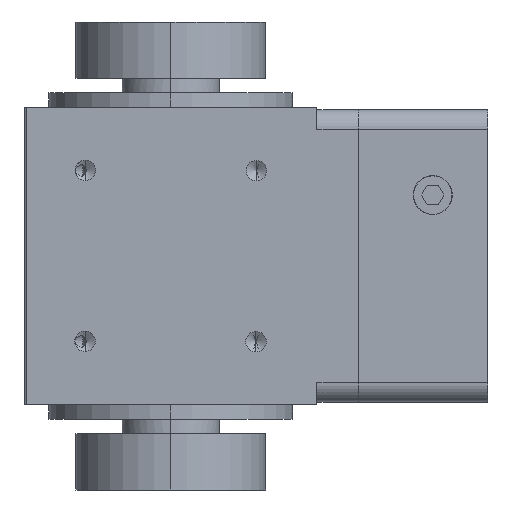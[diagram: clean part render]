
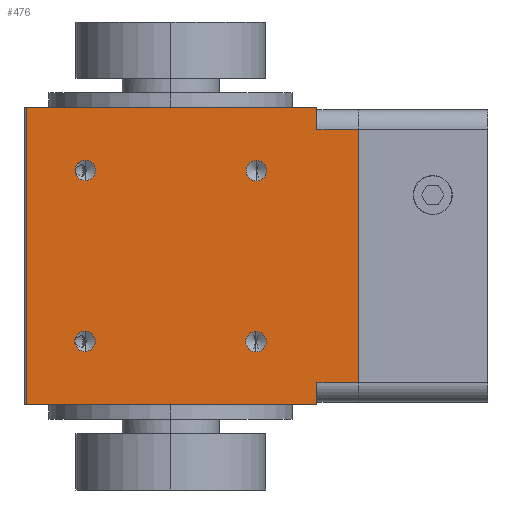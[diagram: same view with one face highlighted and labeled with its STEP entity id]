
A CAD part, left-side view. The second image highlights one B-rep face of the part: STEP entity #476.
In plain terms, the highlighted planar face has unit normal (-1, 0, 0).
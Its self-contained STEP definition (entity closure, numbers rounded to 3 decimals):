
#70 = CARTESIAN_POINT ( 'NONE',  ( -30., -38.5, 26. ) ) ;
#96 = FACE_BOUND ( 'NONE', #4038, .T. ) ;
#128 = EDGE_CURVE ( 'NONE', #6495, #6291, #1496, .T. ) ;
#139 = CIRCLE ( 'NONE', #201, 2.1 ) ;
#180 = FACE_OUTER_BOUND ( 'NONE', #5165, .T. ) ;
#201 = AXIS2_PLACEMENT_3D ( 'NONE', #3367, #2815, #2309 ) ;
#230 = DIRECTION ( 'NONE',  ( 0., -1., 0. ) ) ;
#308 = CARTESIAN_POINT ( 'NONE',  ( -30., 30., -26. ) ) ;
#360 = ORIENTED_EDGE ( 'NONE', *, *, #3170, .F. ) ;
#428 = DIRECTION ( 'NONE',  ( 0., 1., 0. ) ) ;
#470 = DIRECTION ( 'NONE',  ( 0., 0., -1. ) ) ;
#476 = ADVANCED_FACE ( 'NONE', ( #96, #3825, #1649, #3128, #180 ), #2588, .F. ) ;
#477 = DIRECTION ( 'NONE',  ( 0., 0., 1. ) ) ;
#503 = VECTOR ( 'NONE', #866, 1000. ) ;
#538 = EDGE_CURVE ( 'NONE', #3813, #943, #700, .T. ) ;
#597 = CIRCLE ( 'NONE', #5244, 2.1 ) ;
#687 = CARTESIAN_POINT ( 'NONE',  ( -30., 30., 26. ) ) ;
#692 = VERTEX_POINT ( 'NONE', #4547 ) ;
#700 = CIRCLE ( 'NONE', #1173, 2.1 ) ;
#712 = VERTEX_POINT ( 'NONE', #5669 ) ;
#753 = ORIENTED_EDGE ( 'NONE', *, *, #2129, .F. ) ;
#849 = VECTOR ( 'NONE', #470, 1000. ) ;
#866 = DIRECTION ( 'NONE',  ( 0., 0., -1. ) ) ;
#910 = CARTESIAN_POINT ( 'NONE',  ( -30., -17.571, 17.5 ) ) ;
#943 = VERTEX_POINT ( 'NONE', #2567 ) ;
#1085 = DIRECTION ( 'NONE',  ( 0., 0., 1. ) ) ;
#1173 = AXIS2_PLACEMENT_3D ( 'NONE', #1640, #2658, #4962 ) ;
#1300 = DIRECTION ( 'NONE',  ( 0., 1., 0. ) ) ;
#1359 = DIRECTION ( 'NONE',  ( 0., 0., 1. ) ) ;
#1385 = LINE ( 'NONE', #2716, #6348 ) ;
#1386 = CARTESIAN_POINT ( 'NONE',  ( -30., 29.5, -30.5 ) ) ;
#1418 = DIRECTION ( 'NONE',  ( -1., 0., 0. ) ) ;
#1496 = CIRCLE ( 'NONE', #3809, 2.1 ) ;
#1524 = EDGE_CURVE ( 'NONE', #4354, #2408, #1560, .T. ) ;
#1542 = AXIS2_PLACEMENT_3D ( 'NONE', #5966, #4326, #428 ) ;
#1560 = LINE ( 'NONE', #5146, #7136 ) ;
#1572 = CARTESIAN_POINT ( 'NONE',  ( -30., 17.5, 19.671 ) ) ;
#1640 = CARTESIAN_POINT ( 'NONE',  ( -30., 17.5, 17.571 ) ) ;
#1649 = FACE_BOUND ( 'NONE', #4188, .T. ) ;
#1686 = CARTESIAN_POINT ( 'NONE',  ( -30., 17.571, -17.5 ) ) ;
#1713 = ORIENTED_EDGE ( 'NONE', *, *, #2007, .T. ) ;
#1732 = EDGE_CURVE ( 'NONE', #4112, #2787, #3520, .T. ) ;
#1916 = VERTEX_POINT ( 'NONE', #5392 ) ;
#2007 = EDGE_CURVE ( 'NONE', #2408, #2787, #1385, .T. ) ;
#2018 = AXIS2_PLACEMENT_3D ( 'NONE', #3846, #6684, #1085 ) ;
#2040 = CARTESIAN_POINT ( 'NONE',  ( -30., -30., -26. ) ) ;
#2129 = EDGE_CURVE ( 'NONE', #6291, #6495, #6011, .T. ) ;
#2151 = VERTEX_POINT ( 'NONE', #70 ) ;
#2225 = DIRECTION ( 'NONE',  ( 0., 0., 1. ) ) ;
#2258 = ORIENTED_EDGE ( 'NONE', *, *, #538, .F. ) ;
#2309 = DIRECTION ( 'NONE',  ( 0., 0., 1. ) ) ;
#2408 = VERTEX_POINT ( 'NONE', #1386 ) ;
#2567 = CARTESIAN_POINT ( 'NONE',  ( -30., 17.5, 15.471 ) ) ;
#2568 = EDGE_CURVE ( 'NONE', #2151, #692, #7053, .T. ) ;
#2588 = PLANE ( 'NONE',  #1542 ) ;
#2631 = ORIENTED_EDGE ( 'NONE', *, *, #4516, .T. ) ;
#2658 = DIRECTION ( 'NONE',  ( -1., 0., 0. ) ) ;
#2716 = CARTESIAN_POINT ( 'NONE',  ( -30., 30., -30.5 ) ) ;
#2787 = VERTEX_POINT ( 'NONE', #6155 ) ;
#2795 = VERTEX_POINT ( 'NONE', #4451 ) ;
#2815 = DIRECTION ( 'NONE',  ( -1., 0., 0. ) ) ;
#3036 = ORIENTED_EDGE ( 'NONE', *, *, #6430, .T. ) ;
#3090 = ORIENTED_EDGE ( 'NONE', *, *, #5971, .F. ) ;
#3093 = EDGE_CURVE ( 'NONE', #4354, #5569, #3795, .T. ) ;
#3128 = FACE_BOUND ( 'NONE', #4875, .T. ) ;
#3142 = VERTEX_POINT ( 'NONE', #6551 ) ;
#3160 = CARTESIAN_POINT ( 'NONE',  ( -30., 30., 30.5 ) ) ;
#3170 = EDGE_CURVE ( 'NONE', #5569, #712, #7122, .T. ) ;
#3194 = DIRECTION ( 'NONE',  ( 0., 0., 1. ) ) ;
#3347 = AXIS2_PLACEMENT_3D ( 'NONE', #4118, #1418, #1359 ) ;
#3367 = CARTESIAN_POINT ( 'NONE',  ( -30., -17.5, -17.571 ) ) ;
#3407 = DIRECTION ( 'NONE',  ( -1., 0., 0. ) ) ;
#3428 = VECTOR ( 'NONE', #4857, 1000. ) ;
#3438 = EDGE_CURVE ( 'NONE', #2795, #1916, #3699, .T. ) ;
#3440 = DIRECTION ( 'NONE',  ( 0., 0., -1. ) ) ;
#3444 = VECTOR ( 'NONE', #230, 1000. ) ;
#3520 = LINE ( 'NONE', #3525, #503 ) ;
#3525 = CARTESIAN_POINT ( 'NONE',  ( -30., -30., 30.5 ) ) ;
#3676 = DIRECTION ( 'NONE',  ( -1., 0., 0. ) ) ;
#3699 = CIRCLE ( 'NONE', #4014, 2.1 ) ;
#3756 = DIRECTION ( 'NONE',  ( 0., 0., -1. ) ) ;
#3764 = DIRECTION ( 'NONE',  ( 0., -1., 0. ) ) ;
#3794 = CARTESIAN_POINT ( 'NONE',  ( -30., -30., 30.5 ) ) ;
#3795 = LINE ( 'NONE', #3160, #3428 ) ;
#3809 = AXIS2_PLACEMENT_3D ( 'NONE', #1686, #5459, #3194 ) ;
#3813 = VERTEX_POINT ( 'NONE', #1572 ) ;
#3825 = FACE_BOUND ( 'NONE', #5686, .T. ) ;
#3846 = CARTESIAN_POINT ( 'NONE',  ( -30., 17.5, 17.571 ) ) ;
#3973 = EDGE_CURVE ( 'NONE', #943, #3813, #4141, .T. ) ;
#4000 = ORIENTED_EDGE ( 'NONE', *, *, #3093, .F. ) ;
#4014 = AXIS2_PLACEMENT_3D ( 'NONE', #910, #3676, #4714 ) ;
#4038 = EDGE_LOOP ( 'NONE', ( #2258, #6126 ) ) ;
#4088 = ORIENTED_EDGE ( 'NONE', *, *, #1732, .F. ) ;
#4112 = VERTEX_POINT ( 'NONE', #2040 ) ;
#4118 = CARTESIAN_POINT ( 'NONE',  ( -30., -17.571, 17.5 ) ) ;
#4141 = CIRCLE ( 'NONE', #2018, 2.1 ) ;
#4188 = EDGE_LOOP ( 'NONE', ( #4981, #3090 ) ) ;
#4240 = ORIENTED_EDGE ( 'NONE', *, *, #2568, .F. ) ;
#4326 = DIRECTION ( 'NONE',  ( 1., 0., 0. ) ) ;
#4354 = VERTEX_POINT ( 'NONE', #6681 ) ;
#4363 = CARTESIAN_POINT ( 'NONE',  ( -30., -17.5, -15.471 ) ) ;
#4389 = CARTESIAN_POINT ( 'NONE',  ( -30., 17.571, -19.6 ) ) ;
#4431 = LINE ( 'NONE', #308, #3444 ) ;
#4451 = CARTESIAN_POINT ( 'NONE',  ( -30., -17.571, 19.6 ) ) ;
#4516 = EDGE_CURVE ( 'NONE', #2151, #712, #4926, .T. ) ;
#4547 = CARTESIAN_POINT ( 'NONE',  ( -30., -38.5, -26. ) ) ;
#4582 = ORIENTED_EDGE ( 'NONE', *, *, #1524, .T. ) ;
#4714 = DIRECTION ( 'NONE',  ( 0., 0., 1. ) ) ;
#4857 = DIRECTION ( 'NONE',  ( 0., -1., 0. ) ) ;
#4875 = EDGE_LOOP ( 'NONE', ( #7174, #753 ) ) ;
#4926 = LINE ( 'NONE', #687, #5883 ) ;
#4955 = ORIENTED_EDGE ( 'NONE', *, *, #5734, .F. ) ;
#4962 = DIRECTION ( 'NONE',  ( 0., 0., 1. ) ) ;
#4981 = ORIENTED_EDGE ( 'NONE', *, *, #5102, .F. ) ;
#5077 = AXIS2_PLACEMENT_3D ( 'NONE', #5630, #3407, #2225 ) ;
#5102 = EDGE_CURVE ( 'NONE', #6297, #3142, #139, .T. ) ;
#5146 = CARTESIAN_POINT ( 'NONE',  ( -30., 29.5, 30.5 ) ) ;
#5165 = EDGE_LOOP ( 'NONE', ( #4240, #2631, #360, #4000, #4582, #1713, #4088, #3036 ) ) ;
#5244 = AXIS2_PLACEMENT_3D ( 'NONE', #6717, #6631, #477 ) ;
#5392 = CARTESIAN_POINT ( 'NONE',  ( -30., -17.571, 15.4 ) ) ;
#5459 = DIRECTION ( 'NONE',  ( -1., 0., 0. ) ) ;
#5567 = VECTOR ( 'NONE', #3756, 1000. ) ;
#5569 = VERTEX_POINT ( 'NONE', #6193 ) ;
#5630 = CARTESIAN_POINT ( 'NONE',  ( -30., 17.571, -17.5 ) ) ;
#5669 = CARTESIAN_POINT ( 'NONE',  ( -30., -30., 26. ) ) ;
#5686 = EDGE_LOOP ( 'NONE', ( #6639, #4955 ) ) ;
#5734 = EDGE_CURVE ( 'NONE', #1916, #2795, #6890, .T. ) ;
#5829 = CARTESIAN_POINT ( 'NONE',  ( -30., 17.571, -15.4 ) ) ;
#5883 = VECTOR ( 'NONE', #1300, 1000. ) ;
#5966 = CARTESIAN_POINT ( 'NONE',  ( -30., 30., 30.5 ) ) ;
#5971 = EDGE_CURVE ( 'NONE', #3142, #6297, #597, .T. ) ;
#6011 = CIRCLE ( 'NONE', #5077, 2.1 ) ;
#6126 = ORIENTED_EDGE ( 'NONE', *, *, #3973, .F. ) ;
#6155 = CARTESIAN_POINT ( 'NONE',  ( -30., -30., -30.5 ) ) ;
#6193 = CARTESIAN_POINT ( 'NONE',  ( -30., -30., 30.5 ) ) ;
#6291 = VERTEX_POINT ( 'NONE', #4389 ) ;
#6297 = VERTEX_POINT ( 'NONE', #4363 ) ;
#6348 = VECTOR ( 'NONE', #3764, 1000. ) ;
#6430 = EDGE_CURVE ( 'NONE', #4112, #692, #4431, .T. ) ;
#6495 = VERTEX_POINT ( 'NONE', #5829 ) ;
#6551 = CARTESIAN_POINT ( 'NONE',  ( -30., -17.5, -19.671 ) ) ;
#6631 = DIRECTION ( 'NONE',  ( -1., 0., 0. ) ) ;
#6639 = ORIENTED_EDGE ( 'NONE', *, *, #3438, .F. ) ;
#6681 = CARTESIAN_POINT ( 'NONE',  ( -30., 29.5, 30.5 ) ) ;
#6684 = DIRECTION ( 'NONE',  ( -1., 0., 0. ) ) ;
#6717 = CARTESIAN_POINT ( 'NONE',  ( -30., -17.5, -17.571 ) ) ;
#6890 = CIRCLE ( 'NONE', #3347, 2.1 ) ;
#7053 = LINE ( 'NONE', #7104, #5567 ) ;
#7104 = CARTESIAN_POINT ( 'NONE',  ( -30., -38.5, 30.5 ) ) ;
#7122 = LINE ( 'NONE', #3794, #849 ) ;
#7136 = VECTOR ( 'NONE', #3440, 1000. ) ;
#7174 = ORIENTED_EDGE ( 'NONE', *, *, #128, .F. ) ;
